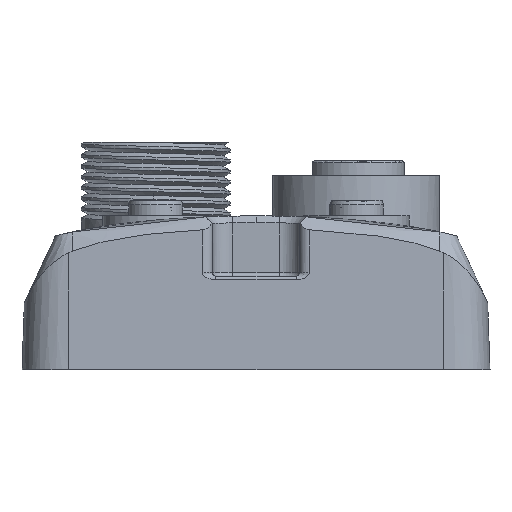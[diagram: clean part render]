
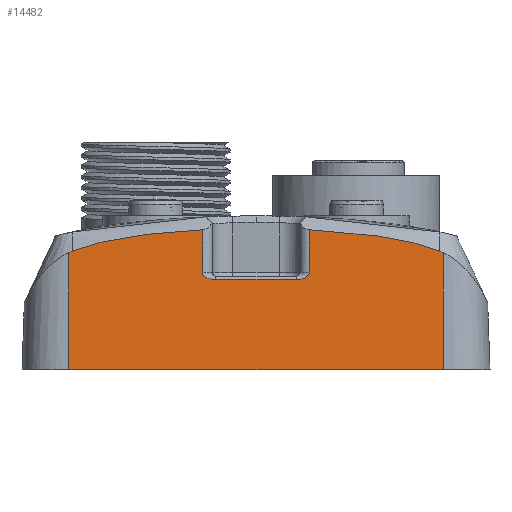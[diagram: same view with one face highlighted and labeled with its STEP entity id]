
A CAD part, front view. The second image highlights one B-rep face of the part: STEP entity #14482.
In plain terms, the highlighted planar face has unit normal (0, -0.999, 0.035).
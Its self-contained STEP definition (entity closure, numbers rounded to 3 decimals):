
#2116=CARTESIAN_POINT('',(-27.499,-111.883,
17.717));
#2117=CARTESIAN_POINT('',(-27.554,-111.884,
17.694));
#2118=CARTESIAN_POINT('',(-27.666,-111.883,
17.653));
#2119=CARTESIAN_POINT('',(-27.832,-111.887,
17.576));
#2120=CARTESIAN_POINT('',(-27.944,-111.888,
17.525));
#2121=CARTESIAN_POINT('',(-28.,-111.889,
17.498));
#2226=CARTESIAN_POINT('',(8.,-111.769,20.923));
#2258=CARTESIAN_POINT('',(28.,-111.889,17.498));
#2259=CARTESIAN_POINT('',(27.943,-111.888,17.526));
#2260=CARTESIAN_POINT('',(27.83,-111.887,17.577));
#2261=CARTESIAN_POINT('',(27.665,-111.883,17.654));
#2262=CARTESIAN_POINT('',(27.553,-111.884,17.694));
#2263=CARTESIAN_POINT('',(27.5,-111.883,17.717));
#2329=DIRECTION('',(1.,0.,0.));
#2330=VECTOR('',#2329,56.);
#2331=CARTESIAN_POINT('',(-28.,-112.5,
0.));
#2332=LINE('',#2331,#2330);
#3044=DIRECTION('',(0.,-0.035,-0.999));
#3045=VECTOR('',#3044,17.509);
#3046=CARTESIAN_POINT('',(-28.,-111.889,
17.498));
#3047=LINE('',#3046,#3045);
#3068=DIRECTION('',(0.,0.035,0.999));
#3069=VECTOR('',#3068,6.375);
#3070=CARTESIAN_POINT('',(8.,-111.992,14.552));
#3071=LINE('',#3070,#3069);
#3072=CARTESIAN_POINT('',(8.,-111.769,20.923));
#3073=CARTESIAN_POINT('',(9.078,-111.771,20.873));
#3074=CARTESIAN_POINT('',(11.169,-111.775,20.751));
#3075=CARTESIAN_POINT('',(14.116,-111.784,20.505));
#3076=CARTESIAN_POINT('',(16.872,-111.795,20.195));
#3077=CARTESIAN_POINT('',(19.435,-111.808,19.822));
#3078=CARTESIAN_POINT('',(21.802,-111.823,19.388));
#3079=CARTESIAN_POINT('',(23.976,-111.84,18.895));
#3080=CARTESIAN_POINT('',(25.898,-111.858,18.345));
#3081=CARTESIAN_POINT('',(26.994,-111.876,17.93));
#3082=CARTESIAN_POINT('',(27.5,-111.883,17.717));
#3084=CARTESIAN_POINT('',(-27.499,-111.883,
17.717));
#3085=CARTESIAN_POINT('',(-27.002,-111.876,
17.927));
#3086=CARTESIAN_POINT('',(-25.925,-111.859,
18.335));
#3087=CARTESIAN_POINT('',(-24.045,-111.841,
18.876));
#3088=CARTESIAN_POINT('',(-21.919,-111.824,
19.364));
#3089=CARTESIAN_POINT('',(-19.551,-111.808,
19.803));
#3090=CARTESIAN_POINT('',(-16.958,-111.795,
20.184));
#3091=CARTESIAN_POINT('',(-14.178,-111.784,
20.499));
#3092=CARTESIAN_POINT('',(-11.205,-111.775,
20.749));
#3093=CARTESIAN_POINT('',(-9.09,-111.771,
20.873));
#3094=CARTESIAN_POINT('',(-8.,-111.769,20.923));
#3101=CARTESIAN_POINT('',(8.,-111.992,14.552));
#3102=CARTESIAN_POINT('',(8.004,-111.995,14.469));
#3103=CARTESIAN_POINT('',(7.978,-112.,14.308));
#3104=CARTESIAN_POINT('',(7.8,-112.009,14.048));
#3105=CARTESIAN_POINT('',(7.604,-112.016,13.87));
#3106=CARTESIAN_POINT('',(7.401,-112.02,13.755));
#3107=CARTESIAN_POINT('',(7.078,-112.025,13.612));
#3108=CARTESIAN_POINT('',(6.643,-112.028,13.512));
#3109=CARTESIAN_POINT('',(6.232,-112.028,13.507));
#3110=CARTESIAN_POINT('',(6.,-112.028,13.517));
#3244=CARTESIAN_POINT('',(-6.,-112.028,
13.517));
#3245=CARTESIAN_POINT('',(-6.222,-112.028,
13.507));
#3246=CARTESIAN_POINT('',(-6.618,-112.028,
13.511));
#3247=CARTESIAN_POINT('',(-7.057,-112.025,
13.604));
#3248=CARTESIAN_POINT('',(-7.388,-112.02,
13.748));
#3249=CARTESIAN_POINT('',(-7.6,-112.016,
13.866));
#3250=CARTESIAN_POINT('',(-7.8,-112.009,
14.047));
#3251=CARTESIAN_POINT('',(-7.98,-112.,
14.313));
#3252=CARTESIAN_POINT('',(-8.005,-111.995,
14.471));
#3253=CARTESIAN_POINT('',(-8.,-111.992,
14.552));
#3260=DIRECTION('',(0.,0.035,0.999));
#3261=VECTOR('',#3260,6.375);
#3262=CARTESIAN_POINT('',(-8.,-111.992,
14.552));
#3263=LINE('',#3262,#3261);
#3312=DIRECTION('',(-1.,0.,0.));
#3313=VECTOR('',#3312,12.);
#3314=CARTESIAN_POINT('',(6.,-112.028,13.517));
#3315=LINE('',#3314,#3313);
#3329=DIRECTION('',(0.,0.035,0.999));
#3330=VECTOR('',#3329,17.509);
#3331=CARTESIAN_POINT('',(28.,-112.5,
0.));
#3332=LINE('',#3331,#3330);
#8622=CARTESIAN_POINT('',(27.5,-111.883,17.717));
#8624=VERTEX_POINT('',#8622);
#8626=VERTEX_POINT('',#2226);
#8631=CARTESIAN_POINT('',(8.,-111.992,14.552));
#8632=VERTEX_POINT('',#8631);
#8633=VERTEX_POINT('',#2116);
#8634=VERTEX_POINT('',#2121);
#8635=VERTEX_POINT('',#3094);
#8638=VERTEX_POINT('',#3110);
#8641=CARTESIAN_POINT('',(-6.,-112.028,
13.517));
#8642=VERTEX_POINT('',#8641);
#8645=VERTEX_POINT('',#3253);
#8752=CARTESIAN_POINT('',(-28.,-112.5,
0.));
#8753=VERTEX_POINT('',#8752);
#8761=CARTESIAN_POINT('',(28.,-112.5,
0.));
#8762=VERTEX_POINT('',#8761);
#8847=CARTESIAN_POINT('',(28.,-111.889,17.498));
#8848=VERTEX_POINT('',#8847);
#14457=CARTESIAN_POINT('',(0.,-112.135,10.462));
#14458=DIRECTION('',(0.,0.999,-0.035));
#14459=DIRECTION('',(-1.,0.,0.));
#14460=AXIS2_PLACEMENT_3D('',#14457,#14458,#14459);
#14461=PLANE('',#14460);
#14463=ORIENTED_EDGE('',*,*,#14462,.F.);
#14465=ORIENTED_EDGE('',*,*,#14464,.T.);
#14466=ORIENTED_EDGE('',*,*,#13134,.T.);
#14467=ORIENTED_EDGE('',*,*,#13223,.F.);
#14469=ORIENTED_EDGE('',*,*,#14468,.F.);
#14470=ORIENTED_EDGE('',*,*,#13271,.F.);
#14471=ORIENTED_EDGE('',*,*,#14449,.F.);
#14472=ORIENTED_EDGE('',*,*,#12877,.F.);
#14473=ORIENTED_EDGE('',*,*,#12926,.T.);
#14475=ORIENTED_EDGE('',*,*,#14474,.F.);
#14477=ORIENTED_EDGE('',*,*,#14476,.F.);
#14479=ORIENTED_EDGE('',*,*,#14478,.F.);
#14480=EDGE_LOOP('',(#14463,#14465,#14466,#14467,#14469,#14470,#14471,#14472,
#14473,#14475,#14477,#14479));
#14481=FACE_OUTER_BOUND('',#14480,.F.);
#14482=ADVANCED_FACE('',(#14481),#14461,.F.);
#2122=B_SPLINE_CURVE_WITH_KNOTS('',3,(#2116,#2117,#2118,#2119,#2120,#2121),
.UNSPECIFIED.,.F.,.F.,(4,1,1,4),(0.,0.333,0.667,1.),
.UNSPECIFIED.);
#2264=B_SPLINE_CURVE_WITH_KNOTS('',3,(#2258,#2259,#2260,#2261,#2262,#2263),
.UNSPECIFIED.,.F.,.F.,(4,1,1,4),(0.,0.333,0.667,1.),
.UNSPECIFIED.);
#3083=B_SPLINE_CURVE_WITH_KNOTS('',3,(#3072,#3073,#3074,#3075,#3076,#3077,#3078,
#3079,#3080,#3081,#3082),.UNSPECIFIED.,.F.,.F.,(4,1,1,1,1,1,1,1,4),(0.,
0.125,0.25,0.375,0.5,0.625,0.75,0.875,1.),.UNSPECIFIED.);
#3095=B_SPLINE_CURVE_WITH_KNOTS('',3,(#3084,#3085,#3086,#3087,#3088,#3089,#3090,
#3091,#3092,#3093,#3094),.UNSPECIFIED.,.F.,.F.,(4,1,1,1,1,1,1,1,4),(0.,
0.125,0.25,0.375,0.5,0.625,0.75,0.875,1.),.UNSPECIFIED.);
#3111=B_SPLINE_CURVE_WITH_KNOTS('',3,(#3101,#3102,#3103,#3104,#3105,#3106,#3107,
#3108,#3109,#3110),.UNSPECIFIED.,.F.,.F.,(4,1,1,1,1,1,1,4),(0.,
0.143,0.286,0.429,0.571,
0.714,0.857,1.),.UNSPECIFIED.);
#3254=B_SPLINE_CURVE_WITH_KNOTS('',3,(#3244,#3245,#3246,#3247,#3248,#3249,#3250,
#3251,#3252,#3253),.UNSPECIFIED.,.F.,.F.,(4,1,1,1,1,1,1,4),(0.,
0.143,0.286,0.429,0.571,
0.714,0.857,1.),.UNSPECIFIED.);
#12877=EDGE_CURVE('',#8633,#8634,#2122,.T.);
#12926=EDGE_CURVE('',#8633,#8635,#3095,.T.);
#13134=EDGE_CURVE('',#8626,#8624,#3083,.T.);
#13223=EDGE_CURVE('',#8848,#8624,#2264,.T.);
#13271=EDGE_CURVE('',#8753,#8762,#2332,.T.);
#14449=EDGE_CURVE('',#8634,#8753,#3047,.T.);
#14462=EDGE_CURVE('',#8632,#8638,#3111,.T.);
#14464=EDGE_CURVE('',#8632,#8626,#3071,.T.);
#14468=EDGE_CURVE('',#8762,#8848,#3332,.T.);
#14474=EDGE_CURVE('',#8645,#8635,#3263,.T.);
#14476=EDGE_CURVE('',#8642,#8645,#3254,.T.);
#14478=EDGE_CURVE('',#8638,#8642,#3315,.T.);
